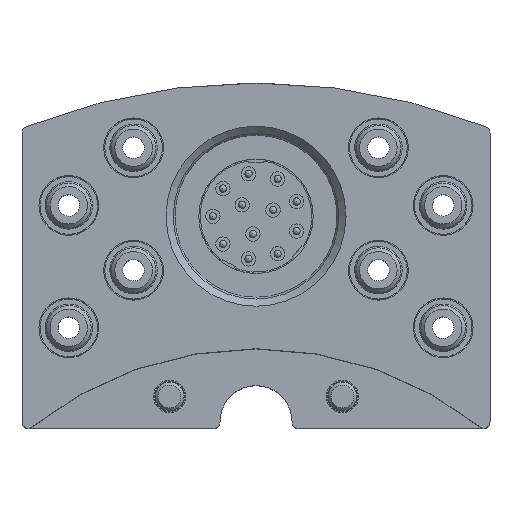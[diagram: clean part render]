
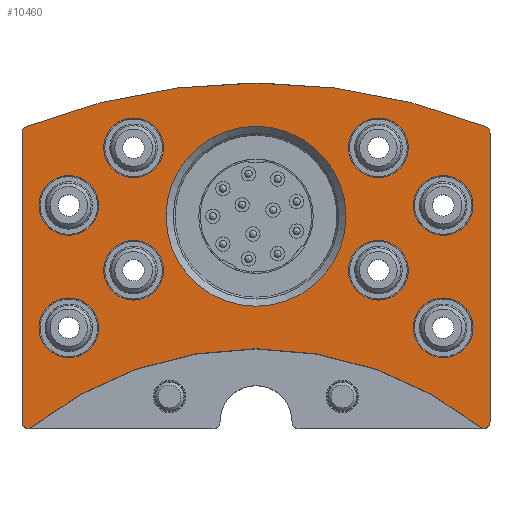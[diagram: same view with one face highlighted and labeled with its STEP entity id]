
A CAD part, top view. The second image highlights one B-rep face of the part: STEP entity #10460.
In plain terms, the highlighted planar face has unit normal (0, 0, 1).
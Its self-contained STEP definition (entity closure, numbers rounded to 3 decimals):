
#233=FACE_BOUND('',#1598,.T.);
#234=FACE_BOUND('',#1599,.T.);
#235=FACE_BOUND('',#1600,.T.);
#236=FACE_BOUND('',#1601,.T.);
#237=FACE_BOUND('',#1602,.T.);
#238=FACE_BOUND('',#1603,.T.);
#239=FACE_BOUND('',#1604,.T.);
#240=FACE_BOUND('',#1605,.T.);
#241=FACE_BOUND('',#1606,.T.);
#458=PLANE('',#11558);
#976=FACE_OUTER_BOUND('',#1597,.T.);
#1597=EDGE_LOOP('',(#8300,#8301,#8302,#8303,#8304,#8305,#8306,#8307,#8308,
#8309));
#1598=EDGE_LOOP('',(#8310,#8311));
#1599=EDGE_LOOP('',(#8312,#8313));
#1600=EDGE_LOOP('',(#8314,#8315));
#1601=EDGE_LOOP('',(#8316,#8317));
#1602=EDGE_LOOP('',(#8318,#8319));
#1603=EDGE_LOOP('',(#8320,#8321));
#1604=EDGE_LOOP('',(#8322,#8323));
#1605=EDGE_LOOP('',(#8324,#8325));
#1606=EDGE_LOOP('',(#8326));
#2371=CIRCLE('',#11554,1.);
#2372=CIRCLE('',#11556,87.);
#2374=CIRCLE('',#11559,1.);
#2375=CIRCLE('',#11560,50.1);
#2376=CIRCLE('',#11561,1.);
#2377=CIRCLE('',#11562,1.);
#2378=CIRCLE('',#11563,4.15);
#2379=CIRCLE('',#11564,4.15);
#2380=CIRCLE('',#11565,4.15);
#2381=CIRCLE('',#11566,4.15);
#2382=CIRCLE('',#11567,4.15);
#2383=CIRCLE('',#11568,4.15);
#2384=CIRCLE('',#11569,4.15);
#2385=CIRCLE('',#11570,4.15);
#2386=CIRCLE('',#11571,4.15);
#2387=CIRCLE('',#11572,4.15);
#2388=CIRCLE('',#11573,4.15);
#2389=CIRCLE('',#11574,4.15);
#2390=CIRCLE('',#11575,4.15);
#2391=CIRCLE('',#11576,4.15);
#2392=CIRCLE('',#11577,4.15);
#2393=CIRCLE('',#11578,4.15);
#2394=CIRCLE('',#11579,12.5);
#3128=LINE('',#19001,#3665);
#3129=LINE('',#19005,#3666);
#3130=LINE('',#19009,#3667);
#3131=LINE('',#19013,#3668);
#3665=VECTOR('',#14247,10.);
#3666=VECTOR('',#14250,10.);
#3667=VECTOR('',#14253,10.);
#3668=VECTOR('',#14256,10.);
#4477=VERTEX_POINT('',#18988);
#4478=VERTEX_POINT('',#18990);
#4479=VERTEX_POINT('',#18994);
#4481=VERTEX_POINT('',#19000);
#4482=VERTEX_POINT('',#19002);
#4483=VERTEX_POINT('',#19004);
#4484=VERTEX_POINT('',#19006);
#4485=VERTEX_POINT('',#19008);
#4486=VERTEX_POINT('',#19010);
#4487=VERTEX_POINT('',#19012);
#4488=VERTEX_POINT('',#19015);
#4489=VERTEX_POINT('',#19016);
#4490=VERTEX_POINT('',#19019);
#4491=VERTEX_POINT('',#19020);
#4492=VERTEX_POINT('',#19023);
#4493=VERTEX_POINT('',#19024);
#4494=VERTEX_POINT('',#19027);
#4495=VERTEX_POINT('',#19028);
#4496=VERTEX_POINT('',#19031);
#4497=VERTEX_POINT('',#19032);
#4498=VERTEX_POINT('',#19035);
#4499=VERTEX_POINT('',#19036);
#4500=VERTEX_POINT('',#19039);
#4501=VERTEX_POINT('',#19040);
#4502=VERTEX_POINT('',#19043);
#4503=VERTEX_POINT('',#19044);
#4504=VERTEX_POINT('',#19047);
#5837=EDGE_CURVE('',#4477,#4478,#2371,.T.);
#5839=EDGE_CURVE('',#4479,#4478,#2372,.T.);
#5842=EDGE_CURVE('',#4477,#4481,#3128,.T.);
#5843=EDGE_CURVE('',#4482,#4481,#2374,.T.);
#5844=EDGE_CURVE('',#4482,#4483,#3129,.T.);
#5845=EDGE_CURVE('',#4483,#4484,#2375,.T.);
#5846=EDGE_CURVE('',#4484,#4485,#3130,.T.);
#5847=EDGE_CURVE('',#4486,#4485,#2376,.T.);
#5848=EDGE_CURVE('',#4486,#4487,#3131,.T.);
#5849=EDGE_CURVE('',#4479,#4487,#2377,.T.);
#5850=EDGE_CURVE('',#4488,#4489,#2378,.T.);
#5851=EDGE_CURVE('',#4489,#4488,#2379,.T.);
#5852=EDGE_CURVE('',#4490,#4491,#2380,.T.);
#5853=EDGE_CURVE('',#4491,#4490,#2381,.T.);
#5854=EDGE_CURVE('',#4492,#4493,#2382,.T.);
#5855=EDGE_CURVE('',#4493,#4492,#2383,.T.);
#5856=EDGE_CURVE('',#4494,#4495,#2384,.T.);
#5857=EDGE_CURVE('',#4495,#4494,#2385,.T.);
#5858=EDGE_CURVE('',#4496,#4497,#2386,.T.);
#5859=EDGE_CURVE('',#4497,#4496,#2387,.T.);
#5860=EDGE_CURVE('',#4498,#4499,#2388,.T.);
#5861=EDGE_CURVE('',#4499,#4498,#2389,.T.);
#5862=EDGE_CURVE('',#4500,#4501,#2390,.T.);
#5863=EDGE_CURVE('',#4501,#4500,#2391,.T.);
#5864=EDGE_CURVE('',#4502,#4503,#2392,.T.);
#5865=EDGE_CURVE('',#4503,#4502,#2393,.T.);
#5866=EDGE_CURVE('',#4504,#4504,#2394,.T.);
#8300=ORIENTED_EDGE('',*,*,#5837,.F.);
#8301=ORIENTED_EDGE('',*,*,#5842,.T.);
#8302=ORIENTED_EDGE('',*,*,#5843,.F.);
#8303=ORIENTED_EDGE('',*,*,#5844,.T.);
#8304=ORIENTED_EDGE('',*,*,#5845,.T.);
#8305=ORIENTED_EDGE('',*,*,#5846,.T.);
#8306=ORIENTED_EDGE('',*,*,#5847,.F.);
#8307=ORIENTED_EDGE('',*,*,#5848,.T.);
#8308=ORIENTED_EDGE('',*,*,#5849,.F.);
#8309=ORIENTED_EDGE('',*,*,#5839,.T.);
#8310=ORIENTED_EDGE('',*,*,#5850,.T.);
#8311=ORIENTED_EDGE('',*,*,#5851,.T.);
#8312=ORIENTED_EDGE('',*,*,#5852,.T.);
#8313=ORIENTED_EDGE('',*,*,#5853,.T.);
#8314=ORIENTED_EDGE('',*,*,#5854,.T.);
#8315=ORIENTED_EDGE('',*,*,#5855,.T.);
#8316=ORIENTED_EDGE('',*,*,#5856,.T.);
#8317=ORIENTED_EDGE('',*,*,#5857,.T.);
#8318=ORIENTED_EDGE('',*,*,#5858,.T.);
#8319=ORIENTED_EDGE('',*,*,#5859,.T.);
#8320=ORIENTED_EDGE('',*,*,#5860,.T.);
#8321=ORIENTED_EDGE('',*,*,#5861,.T.);
#8322=ORIENTED_EDGE('',*,*,#5862,.T.);
#8323=ORIENTED_EDGE('',*,*,#5863,.T.);
#8324=ORIENTED_EDGE('',*,*,#5864,.T.);
#8325=ORIENTED_EDGE('',*,*,#5865,.T.);
#8326=ORIENTED_EDGE('',*,*,#5866,.F.);
#10460=ADVANCED_FACE('',(#976,#233,#234,#235,#236,#237,#238,#239,#240,#241),
#458,.T.);
#11554=AXIS2_PLACEMENT_3D('',#18991,#14235,#14236);
#11556=AXIS2_PLACEMENT_3D('',#18995,#14240,#14241);
#11558=AXIS2_PLACEMENT_3D('',#18999,#14245,#14246);
#11559=AXIS2_PLACEMENT_3D('',#19003,#14248,#14249);
#11560=AXIS2_PLACEMENT_3D('',#19007,#14251,#14252);
#11561=AXIS2_PLACEMENT_3D('',#19011,#14254,#14255);
#11562=AXIS2_PLACEMENT_3D('',#19014,#14257,#14258);
#11563=AXIS2_PLACEMENT_3D('',#19017,#14259,#14260);
#11564=AXIS2_PLACEMENT_3D('',#19018,#14261,#14262);
#11565=AXIS2_PLACEMENT_3D('',#19021,#14263,#14264);
#11566=AXIS2_PLACEMENT_3D('',#19022,#14265,#14266);
#11567=AXIS2_PLACEMENT_3D('',#19025,#14267,#14268);
#11568=AXIS2_PLACEMENT_3D('',#19026,#14269,#14270);
#11569=AXIS2_PLACEMENT_3D('',#19029,#14271,#14272);
#11570=AXIS2_PLACEMENT_3D('',#19030,#14273,#14274);
#11571=AXIS2_PLACEMENT_3D('',#19033,#14275,#14276);
#11572=AXIS2_PLACEMENT_3D('',#19034,#14277,#14278);
#11573=AXIS2_PLACEMENT_3D('',#19037,#14279,#14280);
#11574=AXIS2_PLACEMENT_3D('',#19038,#14281,#14282);
#11575=AXIS2_PLACEMENT_3D('',#19041,#14283,#14284);
#11576=AXIS2_PLACEMENT_3D('',#19042,#14285,#14286);
#11577=AXIS2_PLACEMENT_3D('',#19045,#14287,#14288);
#11578=AXIS2_PLACEMENT_3D('',#19046,#14289,#14290);
#11579=AXIS2_PLACEMENT_3D('',#19048,#14291,#14292);
#14235=DIRECTION('center_axis',(0.,0.,-1.));
#14236=DIRECTION('ref_axis',(-0.827,0.563,0.));
#14240=DIRECTION('center_axis',(0.,0.,1.));
#14241=DIRECTION('ref_axis',(0.374,0.928,0.));
#14245=DIRECTION('center_axis',(0.,0.,1.));
#14246=DIRECTION('ref_axis',(1.,0.,0.));
#14247=DIRECTION('',(0.,-1.,0.));
#14248=DIRECTION('center_axis',(0.,0.,-1.));
#14249=DIRECTION('ref_axis',(-0.707,-0.707,0.));
#14250=DIRECTION('',(1.,0.,0.));
#14251=DIRECTION('center_axis',(0.,0.,-1.));
#14252=DIRECTION('ref_axis',(-1.,0.,0.));
#14253=DIRECTION('',(1.,0.,0.));
#14254=DIRECTION('center_axis',(0.,0.,-1.));
#14255=DIRECTION('ref_axis',(0.707,-0.707,0.));
#14256=DIRECTION('',(0.,1.,0.));
#14257=DIRECTION('center_axis',(0.,0.,-1.));
#14258=DIRECTION('ref_axis',(0.827,0.563,0.));
#14259=DIRECTION('center_axis',(0.,0.,-1.));
#14260=DIRECTION('ref_axis',(1.,0.,0.));
#14261=DIRECTION('center_axis',(0.,0.,-1.));
#14262=DIRECTION('ref_axis',(1.,0.,0.));
#14263=DIRECTION('center_axis',(0.,0.,-1.));
#14264=DIRECTION('ref_axis',(1.,0.,0.));
#14265=DIRECTION('center_axis',(0.,0.,-1.));
#14266=DIRECTION('ref_axis',(1.,0.,0.));
#14267=DIRECTION('center_axis',(0.,0.,-1.));
#14268=DIRECTION('ref_axis',(1.,0.,0.));
#14269=DIRECTION('center_axis',(0.,0.,-1.));
#14270=DIRECTION('ref_axis',(1.,0.,0.));
#14271=DIRECTION('center_axis',(0.,0.,-1.));
#14272=DIRECTION('ref_axis',(1.,0.,0.));
#14273=DIRECTION('center_axis',(0.,0.,-1.));
#14274=DIRECTION('ref_axis',(1.,0.,0.));
#14275=DIRECTION('center_axis',(0.,0.,-1.));
#14276=DIRECTION('ref_axis',(1.,0.,0.));
#14277=DIRECTION('center_axis',(0.,0.,-1.));
#14278=DIRECTION('ref_axis',(1.,0.,0.));
#14279=DIRECTION('center_axis',(0.,0.,-1.));
#14280=DIRECTION('ref_axis',(1.,0.,0.));
#14281=DIRECTION('center_axis',(0.,0.,-1.));
#14282=DIRECTION('ref_axis',(1.,0.,0.));
#14283=DIRECTION('center_axis',(0.,0.,-1.));
#14284=DIRECTION('ref_axis',(1.,0.,0.));
#14285=DIRECTION('center_axis',(0.,0.,-1.));
#14286=DIRECTION('ref_axis',(1.,0.,0.));
#14287=DIRECTION('center_axis',(0.,0.,-1.));
#14288=DIRECTION('ref_axis',(1.,0.,0.));
#14289=DIRECTION('center_axis',(0.,0.,-1.));
#14290=DIRECTION('ref_axis',(1.,0.,0.));
#14291=DIRECTION('center_axis',(0.,0.,1.));
#14292=DIRECTION('ref_axis',(-1.,0.,0.));
#18988=CARTESIAN_POINT('',(-32.5,80.023,0.));
#18990=CARTESIAN_POINT('',(-31.866,80.954,0.));
#18991=CARTESIAN_POINT('Origin',(-31.5,80.023,0.));
#18994=CARTESIAN_POINT('',(31.866,80.954,0.));
#18995=CARTESIAN_POINT('Origin',(0.,0.,0.));
#18999=CARTESIAN_POINT('Origin',(0.,60.685,0.));
#19000=CARTESIAN_POINT('',(-32.5,40.,0.));
#19001=CARTESIAN_POINT('',(-32.5,80.702,0.));
#19002=CARTESIAN_POINT('',(-31.5,39.,0.));
#19003=CARTESIAN_POINT('Origin',(-31.5,40.,0.));
#19004=CARTESIAN_POINT('',(-31.449,39.,0.));
#19005=CARTESIAN_POINT('',(-32.5,39.,0.));
#19006=CARTESIAN_POINT('',(31.449,39.,0.));
#19007=CARTESIAN_POINT('Origin',(0.,0.,0.));
#19008=CARTESIAN_POINT('',(31.5,39.,0.));
#19009=CARTESIAN_POINT('',(5.,39.,0.));
#19010=CARTESIAN_POINT('',(32.5,40.,0.));
#19011=CARTESIAN_POINT('Origin',(31.5,40.,0.));
#19012=CARTESIAN_POINT('',(32.5,80.023,0.));
#19013=CARTESIAN_POINT('',(32.5,39.,0.));
#19014=CARTESIAN_POINT('Origin',(31.5,80.023,0.));
#19015=CARTESIAN_POINT('',(-21.85,70.,0.));
#19016=CARTESIAN_POINT('',(-30.15,70.,0.));
#19017=CARTESIAN_POINT('Origin',(-26.,70.,0.));
#19018=CARTESIAN_POINT('Origin',(-26.,70.,0.));
#19019=CARTESIAN_POINT('',(-21.85,53.,0.));
#19020=CARTESIAN_POINT('',(-30.15,53.,0.));
#19021=CARTESIAN_POINT('Origin',(-26.,53.,0.));
#19022=CARTESIAN_POINT('Origin',(-26.,53.,0.));
#19023=CARTESIAN_POINT('',(-12.85,61.,0.));
#19024=CARTESIAN_POINT('',(-21.15,61.,0.));
#19025=CARTESIAN_POINT('Origin',(-17.,61.,0.));
#19026=CARTESIAN_POINT('Origin',(-17.,61.,0.));
#19027=CARTESIAN_POINT('',(-12.85,78.,0.));
#19028=CARTESIAN_POINT('',(-21.15,78.,0.));
#19029=CARTESIAN_POINT('Origin',(-17.,78.,0.));
#19030=CARTESIAN_POINT('Origin',(-17.,78.,0.));
#19031=CARTESIAN_POINT('',(21.15,78.,0.));
#19032=CARTESIAN_POINT('',(12.85,78.,0.));
#19033=CARTESIAN_POINT('Origin',(17.,78.,0.));
#19034=CARTESIAN_POINT('Origin',(17.,78.,0.));
#19035=CARTESIAN_POINT('',(21.15,61.,0.));
#19036=CARTESIAN_POINT('',(12.85,61.,0.));
#19037=CARTESIAN_POINT('Origin',(17.,61.,0.));
#19038=CARTESIAN_POINT('Origin',(17.,61.,0.));
#19039=CARTESIAN_POINT('',(30.15,53.,0.));
#19040=CARTESIAN_POINT('',(21.85,53.,0.));
#19041=CARTESIAN_POINT('Origin',(26.,53.,0.));
#19042=CARTESIAN_POINT('Origin',(26.,53.,0.));
#19043=CARTESIAN_POINT('',(30.15,70.,0.));
#19044=CARTESIAN_POINT('',(21.85,70.,0.));
#19045=CARTESIAN_POINT('Origin',(26.,70.,0.));
#19046=CARTESIAN_POINT('Origin',(26.,70.,0.));
#19047=CARTESIAN_POINT('',(12.5,68.5,0.));
#19048=CARTESIAN_POINT('Origin',(0.,68.5,0.));
